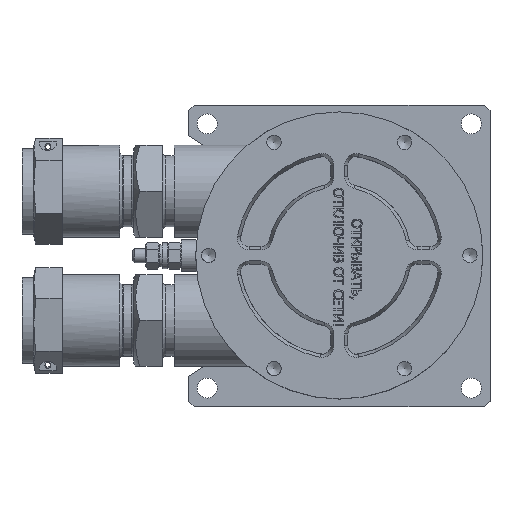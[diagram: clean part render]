
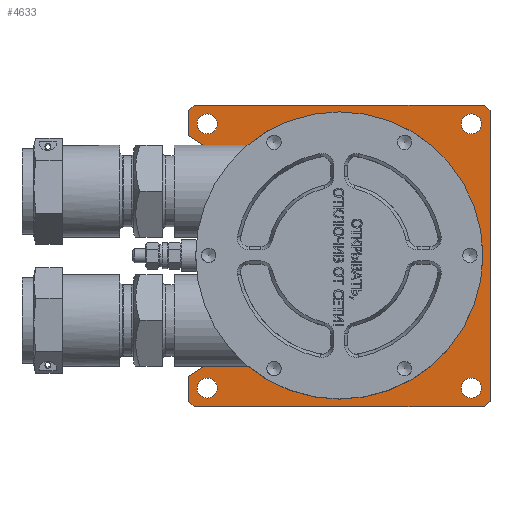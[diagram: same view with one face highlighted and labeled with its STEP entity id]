
A CAD part, top view. The second image highlights one B-rep face of the part: STEP entity #4633.
In plain terms, the highlighted planar face has unit normal (0, 0, 1).
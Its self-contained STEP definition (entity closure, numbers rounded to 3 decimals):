
#4633=ADVANCED_FACE('',(#10872,#10874,#10876,#10878,#10880,#10882),#10884,.F.);
#10872=FACE_BOUND('',#10873,.T.);
#10873=EDGE_LOOP('',(#15244,#15245,#15246,#15247,#15248,#15249,#15250,#15251,#15252,
#15253,#15254,#15255,#15256,#15257));
#10874=FACE_BOUND('',#10875,.T.);
#10875=EDGE_LOOP('',(#15258));
#10876=FACE_BOUND('',#10877,.T.);
#10877=EDGE_LOOP('',(#15259));
#10878=FACE_BOUND('',#10879,.T.);
#10879=EDGE_LOOP('',(#15260));
#10880=FACE_BOUND('',#10881,.T.);
#10881=EDGE_LOOP('',(#15261));
#10882=FACE_BOUND('',#10883,.T.);
#10883=EDGE_LOOP('',(#15262));
#10884=PLANE('',#10885);
#10885=AXIS2_PLACEMENT_3D('',#10886,#10887,#10888);
#10886=CARTESIAN_POINT('',(-0.053,0.,0.));
#10887=DIRECTION('',(0.,0.,-1.));
#10888=DIRECTION('',(-1.,0.,0.));
#15244=ORIENTED_EDGE('',*,*,#17343,.F.);
#15245=ORIENTED_EDGE('',*,*,#17344,.F.);
#15246=ORIENTED_EDGE('',*,*,#17345,.F.);
#15247=ORIENTED_EDGE('',*,*,#17346,.F.);
#15248=ORIENTED_EDGE('',*,*,#17347,.F.);
#15249=ORIENTED_EDGE('',*,*,#17348,.F.);
#15250=ORIENTED_EDGE('',*,*,#17349,.F.);
#15251=ORIENTED_EDGE('',*,*,#17350,.F.);
#15252=ORIENTED_EDGE('',*,*,#17351,.F.);
#15253=ORIENTED_EDGE('',*,*,#17352,.F.);
#15254=ORIENTED_EDGE('',*,*,#17353,.F.);
#15255=ORIENTED_EDGE('',*,*,#17354,.F.);
#15256=ORIENTED_EDGE('',*,*,#17355,.F.);
#15257=ORIENTED_EDGE('',*,*,#17356,.F.);
#15258=ORIENTED_EDGE('',*,*,#17341,.F.);
#15259=ORIENTED_EDGE('',*,*,#17357,.T.);
#15260=ORIENTED_EDGE('',*,*,#17358,.T.);
#15261=ORIENTED_EDGE('',*,*,#17359,.T.);
#15262=ORIENTED_EDGE('',*,*,#17360,.T.);
#17341=EDGE_CURVE('',#19883,#19883,#19884,.F.);
#17343=EDGE_CURVE('',#19887,#19888,#19889,.T.);
#17344=EDGE_CURVE('',#19890,#19887,#19891,.T.);
#17345=EDGE_CURVE('',#19892,#19890,#19893,.T.);
#17346=EDGE_CURVE('',#19894,#19892,#19895,.T.);
#17347=EDGE_CURVE('',#19896,#19894,#19897,.T.);
#17348=EDGE_CURVE('',#19898,#19896,#19899,.T.);
#17349=EDGE_CURVE('',#19900,#19898,#19901,.T.);
#17350=EDGE_CURVE('',#19902,#19900,#19903,.T.);
#17351=EDGE_CURVE('',#19904,#19902,#19905,.T.);
#17352=EDGE_CURVE('',#19906,#19904,#19907,.T.);
#17353=EDGE_CURVE('',#19908,#19906,#19909,.T.);
#17354=EDGE_CURVE('',#19910,#19908,#19911,.T.);
#17355=EDGE_CURVE('',#19912,#19910,#19913,.T.);
#17356=EDGE_CURVE('',#19888,#19912,#19914,.T.);
#17357=EDGE_CURVE('',#19915,#19915,#19916,.T.);
#17358=EDGE_CURVE('',#19917,#19917,#19918,.T.);
#17359=EDGE_CURVE('',#19919,#19919,#19920,.T.);
#17360=EDGE_CURVE('',#19921,#19921,#19922,.T.);
#19883=VERTEX_POINT('',#31111);
#19884=CIRCLE('',#31112,4.5);
#19887=VERTEX_POINT('',#31121);
#19888=VERTEX_POINT('',#31122);
#19889=LINE('',#31123,#31124);
#19890=VERTEX_POINT('',#31126);
#19891=LINE('',#31127,#31128);
#19892=VERTEX_POINT('',#31130);
#19893=LINE('',#31131,#31132);
#19894=VERTEX_POINT('',#31134);
#19895=LINE('',#31135,#31136);
#19896=VERTEX_POINT('',#31138);
#19897=LINE('',#31139,#31140);
#19898=VERTEX_POINT('',#31142);
#19899=LINE('',#31143,#31144);
#19900=VERTEX_POINT('',#31146);
#19901=CIRCLE('',#31147,5.);
#19902=VERTEX_POINT('',#31151);
#19903=CIRCLE('',#31152,46.);
#19904=VERTEX_POINT('',#31156);
#19905=CIRCLE('',#31157,5.);
#19906=VERTEX_POINT('',#31161);
#19907=LINE('',#31162,#31163);
#19908=VERTEX_POINT('',#31165);
#19909=LINE('',#31166,#31167);
#19910=VERTEX_POINT('',#31169);
#19911=LINE('',#31170,#31171);
#19912=VERTEX_POINT('',#31173);
#19913=LINE('',#31174,#31175);
#19914=LINE('',#31177,#31178);
#19915=VERTEX_POINT('',#31180);
#19916=CIRCLE('',#31181,3.5);
#19917=VERTEX_POINT('',#31185);
#19918=CIRCLE('',#31186,3.5);
#19919=VERTEX_POINT('',#31190);
#19920=CIRCLE('',#31191,3.5);
#19921=VERTEX_POINT('',#31195);
#19922=CIRCLE('',#31196,3.5);
#31111=CARTESIAN_POINT('',(40.5,0.,0.));
#31112=AXIS2_PLACEMENT_3D('',#31113,#31114,#31115);
#31113=CARTESIAN_POINT('',(36.,0.,0.));
#31114=DIRECTION('',(0.,0.,-1.));
#31115=DIRECTION('',(1.,0.,0.));
#31121=CARTESIAN_POINT('',(52.5,50.5,0.));
#31122=CARTESIAN_POINT('',(52.5,-50.5,0.));
#31123=CARTESIAN_POINT('',(52.5,50.5,0.));
#31124=VECTOR('',#31125,1.);
#31125=DIRECTION('',(0.,-1.,0.));
#31126=CARTESIAN_POINT('',(50.5,52.5,0.));
#31127=CARTESIAN_POINT('',(50.5,52.5,0.));
#31128=VECTOR('',#31129,1.);
#31129=DIRECTION('',(0.707,-0.707,0.));
#31130=CARTESIAN_POINT('',(-50.5,52.5,0.));
#31131=CARTESIAN_POINT('',(-50.5,52.5,0.));
#31132=VECTOR('',#31133,1.);
#31133=DIRECTION('',(1.,0.,0.));
#31134=CARTESIAN_POINT('',(-52.5,50.5,0.));
#31135=CARTESIAN_POINT('',(-52.5,50.5,0.));
#31136=VECTOR('',#31137,1.);
#31137=DIRECTION('',(0.707,0.707,0.));
#31138=CARTESIAN_POINT('',(-52.5,42.,0.));
#31139=CARTESIAN_POINT('',(-52.5,42.,0.));
#31140=VECTOR('',#31141,1.);
#31141=DIRECTION('',(0.,1.,0.));
#31142=CARTESIAN_POINT('',(-39.225,33.046,0.));
#31143=CARTESIAN_POINT('',(-39.225,33.046,0.));
#31144=VECTOR('',#31145,1.);
#31145=DIRECTION('',(-0.829,0.559,0.));
#31146=CARTESIAN_POINT('',(-37.901,26.067,0.));
#31147=AXIS2_PLACEMENT_3D('',#31148,#31149,#31150);
#31148=CARTESIAN_POINT('',(-42.021,28.901,0.));
#31149=DIRECTION('',(0.,0.,1.));
#31150=DIRECTION('',(0.824,-0.567,0.));
#31151=CARTESIAN_POINT('',(-37.901,-26.067,0.));
#31152=AXIS2_PLACEMENT_3D('',#31153,#31154,#31155);
#31153=CARTESIAN_POINT('',(0.,0.,0.));
#31154=DIRECTION('',(0.,0.,-1.));
#31155=DIRECTION('',(-0.824,-0.567,0.));
#31156=CARTESIAN_POINT('',(-39.225,-33.046,0.));
#31157=AXIS2_PLACEMENT_3D('',#31158,#31159,#31160);
#31158=CARTESIAN_POINT('',(-42.021,-28.901,0.));
#31159=DIRECTION('',(0.,0.,1.));
#31160=DIRECTION('',(0.559,-0.829,0.));
#31161=CARTESIAN_POINT('',(-52.5,-42.,0.));
#31162=CARTESIAN_POINT('',(-52.5,-42.,0.));
#31163=VECTOR('',#31164,1.);
#31164=DIRECTION('',(0.829,0.559,0.));
#31165=CARTESIAN_POINT('',(-52.5,-50.5,0.));
#31166=CARTESIAN_POINT('',(-52.5,-50.5,0.));
#31167=VECTOR('',#31168,1.);
#31168=DIRECTION('',(0.,1.,0.));
#31169=CARTESIAN_POINT('',(-50.5,-52.5,0.));
#31170=CARTESIAN_POINT('',(-50.5,-52.5,0.));
#31171=VECTOR('',#31172,1.);
#31172=DIRECTION('',(-0.707,0.707,0.));
#31173=CARTESIAN_POINT('',(50.5,-52.5,0.));
#31174=CARTESIAN_POINT('',(50.5,-52.5,0.));
#31175=VECTOR('',#31176,1.);
#31176=DIRECTION('',(-1.,0.,0.));
#31177=CARTESIAN_POINT('',(52.5,-50.5,0.));
#31178=VECTOR('',#31179,1.);
#31179=DIRECTION('',(-0.707,-0.707,0.));
#31180=CARTESIAN_POINT('',(42.5,46.,0.));
#31181=AXIS2_PLACEMENT_3D('',#31182,#31183,#31184);
#31182=CARTESIAN_POINT('',(46.,46.,0.));
#31183=DIRECTION('',(0.,0.,-1.));
#31184=DIRECTION('',(-1.,0.,0.));
#31185=CARTESIAN_POINT('',(42.5,-46.,0.));
#31186=AXIS2_PLACEMENT_3D('',#31187,#31188,#31189);
#31187=CARTESIAN_POINT('',(46.,-46.,0.));
#31188=DIRECTION('',(0.,0.,-1.));
#31189=DIRECTION('',(-1.,0.,0.));
#31190=CARTESIAN_POINT('',(-49.5,-46.,0.));
#31191=AXIS2_PLACEMENT_3D('',#31192,#31193,#31194);
#31192=CARTESIAN_POINT('',(-46.,-46.,0.));
#31193=DIRECTION('',(0.,0.,-1.));
#31194=DIRECTION('',(-1.,0.,0.));
#31195=CARTESIAN_POINT('',(-49.5,46.,0.));
#31196=AXIS2_PLACEMENT_3D('',#31197,#31198,#31199);
#31197=CARTESIAN_POINT('',(-46.,46.,0.));
#31198=DIRECTION('',(0.,0.,-1.));
#31199=DIRECTION('',(-1.,0.,0.));
